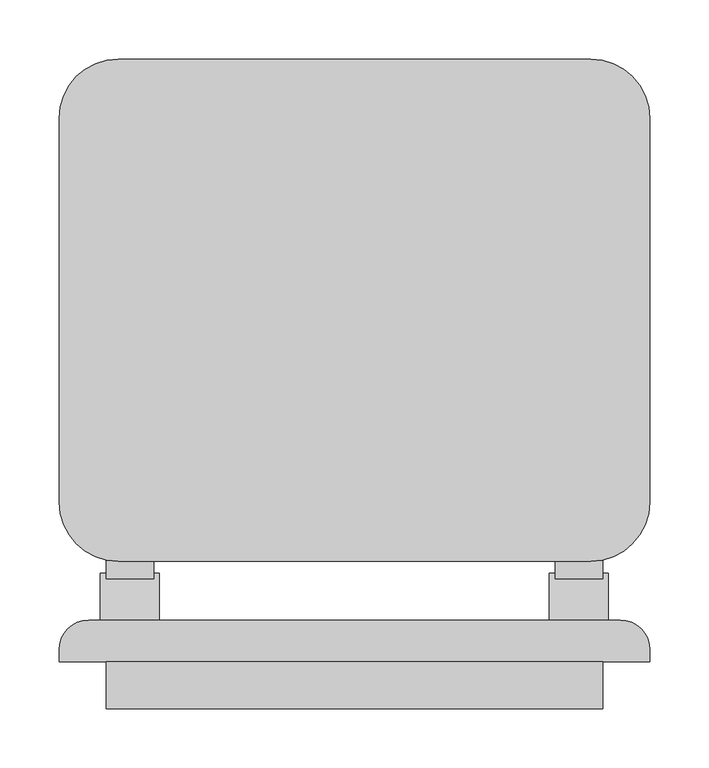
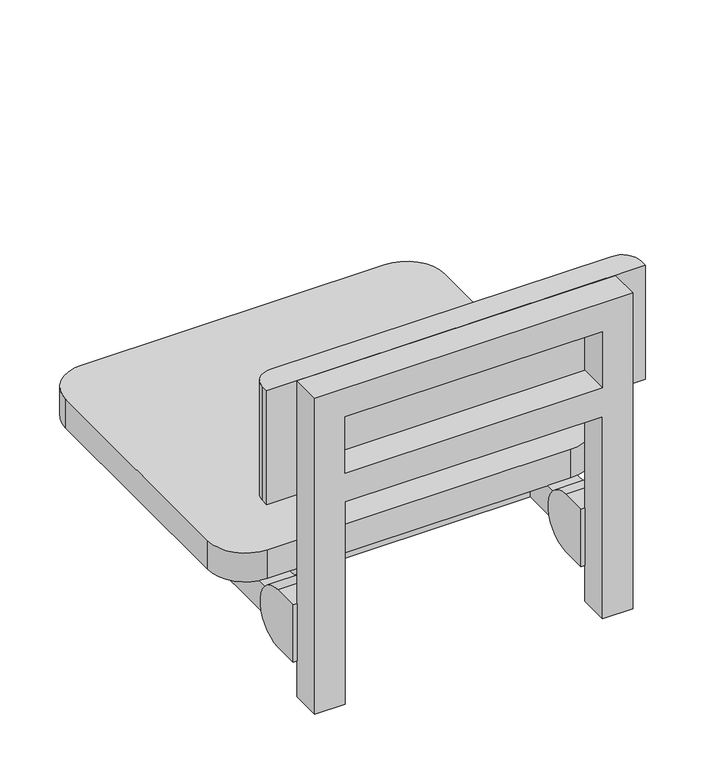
"""IFC4 building model written with IfcOpenShell, lengths in millimetres: proxy geometry, BIMHealth-Seat_Shower-LOD2A-v1 : BIMHealth-Seat_Shower-LOD2A-v1."""

from ifc_helpers import new_model, si_unit, point, frame, frame_2d, origin, place, context, project, spatial, polyline, circle_curve, trimmed, segment, composite_curve, outline, extrude, faceted_brep, source, transform, mapped, element, save


def generic_models_b4c89709(model_context):
    return source(origin(), model_context, "Body", "SolidModel", [
        extrude(outline(composite_curve([segment(polyline([(40.0, 500.0), (75.0, 500.0)]), True, "CONTINUOUS"), segment(trimmed(circle_curve(frame_2d((75.0, 460.0)), 40.0), [point((75.0, 500.0))], [point((75.0, 420.0))], False, "CARTESIAN"), True, "CONTINUOUS"), segment(polyline([(75.0, 420.0), (40.0, 420.0), (40.0, 500.0)]), True, "CONTINUOUS")], self_intersect=False)), frame((415.0, 0.0, 0.0), z_axis=(1.0, 0.0, 0.0), x_axis=(0.0, 1.0, 0.0)), (0.0, 0.0, 1.0), 50.0),
        extrude(outline(composite_curve([segment(polyline([(40.0, 500.0), (75.0, 500.0)]), True, "CONTINUOUS"), segment(trimmed(circle_curve(frame_2d((75.0, 460.0)), 40.0), [point((75.0, 500.0))], [point((75.0, 420.0))], False, "CARTESIAN"), True, "CONTINUOUS"), segment(polyline([(75.0, 420.0), (40.0, 420.0), (40.0, 500.0)]), True, "CONTINUOUS")], self_intersect=False)), frame((35.0, 0.0, 0.0), z_axis=(1.0, 0.0, 0.0), x_axis=(0.0, 1.0, 0.0)), (0.0, 0.0, 1.0), 50.0),
        faceted_brep([(40.0, 510.0, 440.0), (460.0, 510.0, 440.0), (460.0, 40.0, 440.0), (420.0, 40.0, 440.0), (420.0, 165.0, 440.0), (80.0, 165.0, 440.0), (80.0, 75.0, 440.0), (40.0, 75.0, 440.0), (80.0, 470.0, 440.0), (80.0, 205.0, 440.0), (420.0, 205.0, 440.0), (420.0, 470.0, 440.0), (80.0, 75.0, 480.0), (80.0, 165.0, 480.0), (420.0, 165.0, 480.0), (420.0, 40.0, 480.0), (460.0, 40.0, 480.0), (460.0, 510.0, 480.0), (40.0, 510.0, 480.0), (40.0, 75.0, 480.0), (420.0, 470.0, 480.0), (420.0, 205.0, 480.0), (80.0, 205.0, 480.0), (80.0, 470.0, 480.0), (40.0, 0.0, 810.6427919), (460.0, 0.0, 810.6427919), (460.0, 40.0, 810.6427919), (40.0, 40.0, 810.6427919), (80.0, 40.0, 370.0), (80.0, 0.0, 370.0), (40.0, 0.0, 370.0), (40.0, 40.0, 370.0), (80.0, 40.0, 652.2146196), (80.0, 0.0, 652.2146196), (80.0, 40.0, 692.2146196), (80.0, 40.0, 770.6427919), (80.0, 0.0, 770.6427919), (80.0, 0.0, 692.2146196), (420.0, 0.0, 652.2146196), (420.0, 0.0, 370.0), (460.0, 0.0, 370.0), (420.0, 0.0, 692.2146196), (420.0, 0.0, 770.6427919), (420.0, 40.0, 370.0), (460.0, 40.0, 370.0), (420.0, 40.0, 652.2146196), (420.0, 40.0, 692.2146196), (420.0, 40.0, 770.6427919)], [[[0, 1, 2, 3, 4, 5, 6, 7], [8, 9, 10, 11]], [[12, 13, 14, 15, 16, 17, 18, 19], [20, 21, 22, 23]], [[6, 5, 13, 12]], [[23, 22, 9, 8]], [[6, 12, 19, 7]], [[7, 19, 18, 0]], [[18, 17, 1, 0]], [[24, 25, 26, 27]], [[28, 29, 30, 31]], [[28, 32, 33, 29]], [[34, 35, 36, 37]], [[24, 30, 29, 33, 38, 39, 40, 25], [41, 37, 36, 42]], [[27, 31, 30, 24]], [[43, 3, 2, 44]], [[26, 16, 15, 45, 32, 28, 31, 27], [34, 46, 47, 35]], [[41, 46, 34, 37]], [[45, 38, 33, 32]], [[43, 44, 40, 39]], [[11, 10, 21, 20]], [[41, 42, 47, 46]], [[39, 38, 45, 15, 14, 4, 3, 43]], [[25, 40, 44, 2, 1, 17, 16, 26]], [[11, 20, 23, 8]], [[4, 14, 13, 5]], [[9, 22, 21, 10]], [[47, 42, 36, 35]]]),
        extrude(outline(composite_curve([segment(polyline([(450.0, 125.0), (50.0, 125.0)]), True, "CONTINUOUS"), segment(trimmed(circle_curve(frame_2d((50.0, 175.0)), 50.0), [point((50.0, 125.0))], [point((0.0, 175.0))], False, "CARTESIAN"), True, "CONTINUOUS"), segment(polyline([(0.0, 175.0), (0.0, 500.0)]), True, "CONTINUOUS"), segment(trimmed(circle_curve(frame_2d((50.0, 500.0)), 50.0), [point((0.0, 500.0))], [point((50.0, 550.0))], False, "CARTESIAN"), True, "CONTINUOUS"), segment(polyline([(50.0, 550.0), (450.0, 550.0)]), True, "CONTINUOUS"), segment(trimmed(circle_curve(frame_2d((450.0, 500.0)), 50.0), [point((450.0, 550.0))], [point((500.0, 500.0))], False, "CARTESIAN"), True, "CONTINUOUS"), segment(polyline([(500.0, 500.0), (500.0, 175.0)]), True, "CONTINUOUS"), segment(trimmed(circle_curve(frame_2d((450.0, 175.0)), 50.0), [point((500.0, 175.0))], [point((450.0, 125.0))], False, "CARTESIAN"), True, "CONTINUOUS")], self_intersect=False)), frame((0.0, 0.0, 480.0), z_axis=(0.0, 0.0, 1.0), x_axis=(1.0, 0.0, 0.0)), (0.0, 0.0, 1.0), 40.0),
        extrude(outline(composite_curve([segment(trimmed(circle_curve(frame_2d((475.0, 50.0)), 25.0), [point((475.0, 75.0))], [point((500.0, 50.0))], False, "CARTESIAN"), True, "CONTINUOUS"), segment(polyline([(500.0, 50.0), (500.0, 40.0), (0.0, 40.0), (0.0, 50.0)]), True, "CONTINUOUS"), segment(trimmed(circle_curve(frame_2d((25.0, 50.0)), 25.0), [point((0.0, 50.0))], [point((25.0, 75.0))], False, "CARTESIAN"), True, "CONTINUOUS"), segment(polyline([(25.0, 75.0), (475.0, 75.0)]), True, "CONTINUOUS")], self_intersect=False)), frame((0.0, 0.0, 652.2146196), z_axis=(0.0, 0.0, 1.0), x_axis=(1.0, 0.0, 0.0)), (0.0, 0.0, 1.0), 158.4281723),
    ])


if __name__ == "__main__":
    model = new_model("IFC4")
    model_context = context("Model", 3, world=origin())
    ifc_project = project(units=[si_unit("LENGTHUNIT", "METRE", prefix="MILLI")], contexts=[model_context])
    site = spatial("IfcSite", under=ifc_project)
    building = spatial("IfcBuilding", under=site)
    placement = place(None, origin())
    generic_models_shape = generic_models_b4c89709(model_context)
    element("IfcBuildingElementProxy", 1, Name="BIMHealth-Seat_Shower-LOD2A-v1 : BIMHealth-Seat_Shower-LOD2A-v1", ObjectType="BIMHealth-Seat_Shower-LOD2A-v1 : BIMHealth-Seat_Shower-LOD2A-v1", at=placement, inside=building, context=model_context, shape_type="MappedRepresentation", body=[
        mapped(generic_models_shape, transform((0.0, 0.0, 0.0), x_axis=(1.0, 0.0, 0.0), y_axis=(0.0, 1.0, 0.0), z_axis=(0.0, 0.0, 1.0))),
    ])
    save(model, "model.ifc")
